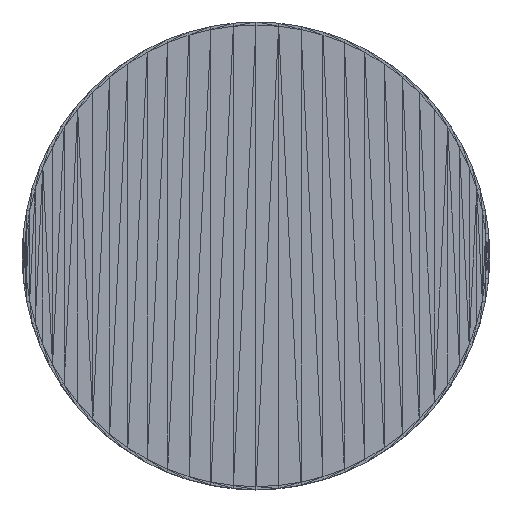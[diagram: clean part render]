
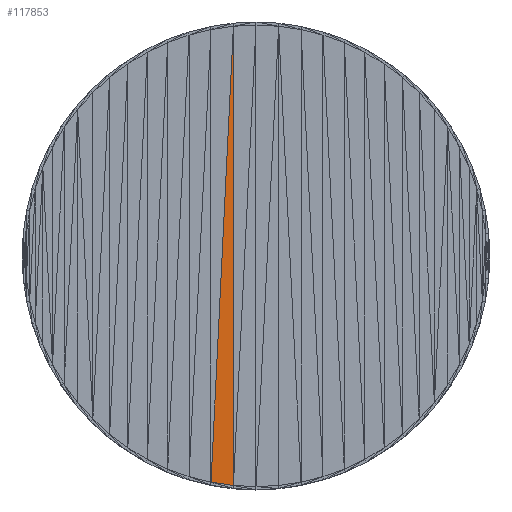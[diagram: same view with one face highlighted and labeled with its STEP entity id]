
A CAD part, top view. The second image highlights one B-rep face of the part: STEP entity #117853.
In plain terms, the highlighted planar face has unit normal (0, 0, 1).
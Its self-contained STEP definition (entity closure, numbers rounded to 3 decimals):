
#112927 = VERTEX_POINT('',#112928);
#112928 = CARTESIAN_POINT('',(195.196,14.576,
    160.));
#113003 = PLANE('',#113004);
#113004 = AXIS2_PLACEMENT_3D('',#113005,#113006,#113007);
#113005 = CARTESIAN_POINT('',(205.5,13.048,
    159.477));
#113006 = DIRECTION('',(-0.147,-0.989,
    0.));
#113007 = DIRECTION('',(-0.989,0.147,0.));
#114446 = VERTEX_POINT('',#114447);
#114447 = CARTESIAN_POINT('',(216.747,453.242,
    160.));
#114461 = PLANE('',#114462);
#114462 = AXIS2_PLACEMENT_3D('',#114463,#114464,#114465);
#114463 = CARTESIAN_POINT('',(200.737,238.424,
    160.));
#114464 = DIRECTION('',(0.,0.,1.));
#114465 = DIRECTION('',(1.,0.,-0.));
#114577 = PLANE('',#114578);
#114578 = AXIS2_PLACEMENT_3D('',#114579,#114580,#114581);
#114579 = CARTESIAN_POINT('',(222.327,237.891,
    160.));
#114580 = DIRECTION('',(0.,0.,1.));
#114581 = DIRECTION('',(1.,0.,0.));
#116568 = VERTEX_POINT('',#116569);
#116569 = CARTESIAN_POINT('',(216.747,11.38,
    160.));
#117827 = EDGE_CURVE('',#112927,#114446,#117828,.T.);
#117828 = SURFACE_CURVE('',#117829,(#117833,#117840),.PCURVE_S1.);
#117829 = LINE('',#117830,#117831);
#117830 = CARTESIAN_POINT('',(195.196,14.576,
    160.));
#117831 = VECTOR('',#117832,1.);
#117832 = DIRECTION('',(0.049,0.999,0.));
#117833 = PCURVE('',#114461,#117834);
#117834 = DEFINITIONAL_REPRESENTATION('',(#117835),#117839);
#117835 = LINE('',#117836,#117837);
#117836 = CARTESIAN_POINT('',(-5.541,-223.848));
#117837 = VECTOR('',#117838,1.);
#117838 = DIRECTION('',(0.049,0.999));
#117839 = ( GEOMETRIC_REPRESENTATION_CONTEXT(2) 
PARAMETRIC_REPRESENTATION_CONTEXT() REPRESENTATION_CONTEXT('2D SPACE',''
  ) );
#117840 = PCURVE('',#117841,#117846);
#117841 = PLANE('',#117842);
#117842 = AXIS2_PLACEMENT_3D('',#117843,#117844,#117845);
#117843 = CARTESIAN_POINT('',(211.245,227.796,
    160.));
#117844 = DIRECTION('',(0.,0.,1.));
#117845 = DIRECTION('',(1.,0.,-0.));
#117846 = DEFINITIONAL_REPRESENTATION('',(#117847),#117851);
#117847 = LINE('',#117848,#117849);
#117848 = CARTESIAN_POINT('',(-16.049,-213.219));
#117849 = VECTOR('',#117850,1.);
#117850 = DIRECTION('',(0.049,0.999));
#117851 = ( GEOMETRIC_REPRESENTATION_CONTEXT(2) 
PARAMETRIC_REPRESENTATION_CONTEXT() REPRESENTATION_CONTEXT('2D SPACE',''
  ) );
#117853 = ADVANCED_FACE('',(#117854),#117841,.T.);
#117854 = FACE_BOUND('',#117855,.T.);
#117855 = EDGE_LOOP('',(#117856,#117857,#117878));
#117856 = ORIENTED_EDGE('',*,*,#117827,.F.);
#117857 = ORIENTED_EDGE('',*,*,#117858,.T.);
#117858 = EDGE_CURVE('',#112927,#116568,#117859,.T.);
#117859 = SURFACE_CURVE('',#117860,(#117864,#117871),.PCURVE_S1.);
#117860 = LINE('',#117861,#117862);
#117861 = CARTESIAN_POINT('',(195.196,14.576,
    160.));
#117862 = VECTOR('',#117863,1.);
#117863 = DIRECTION('',(0.989,-0.147,0.));
#117864 = PCURVE('',#117841,#117865);
#117865 = DEFINITIONAL_REPRESENTATION('',(#117866),#117870);
#117866 = LINE('',#117867,#117868);
#117867 = CARTESIAN_POINT('',(-16.049,-213.219));
#117868 = VECTOR('',#117869,1.);
#117869 = DIRECTION('',(0.989,-0.147));
#117870 = ( GEOMETRIC_REPRESENTATION_CONTEXT(2) 
PARAMETRIC_REPRESENTATION_CONTEXT() REPRESENTATION_CONTEXT('2D SPACE',''
  ) );
#117871 = PCURVE('',#113003,#117872);
#117872 = DEFINITIONAL_REPRESENTATION('',(#117873),#117877);
#117873 = LINE('',#117874,#117875);
#117874 = CARTESIAN_POINT('',(10.416,-0.523));
#117875 = VECTOR('',#117876,1.);
#117876 = DIRECTION('',(-1.,0.));
#117877 = ( GEOMETRIC_REPRESENTATION_CONTEXT(2) 
PARAMETRIC_REPRESENTATION_CONTEXT() REPRESENTATION_CONTEXT('2D SPACE',''
  ) );
#117878 = ORIENTED_EDGE('',*,*,#117879,.T.);
#117879 = EDGE_CURVE('',#116568,#114446,#117880,.T.);
#117880 = SURFACE_CURVE('',#117881,(#117885,#117892),.PCURVE_S1.);
#117881 = LINE('',#117882,#117883);
#117882 = CARTESIAN_POINT('',(216.747,11.38,
    160.));
#117883 = VECTOR('',#117884,1.);
#117884 = DIRECTION('',(0.,1.,0.));
#117885 = PCURVE('',#117841,#117886);
#117886 = DEFINITIONAL_REPRESENTATION('',(#117887),#117891);
#117887 = LINE('',#117888,#117889);
#117888 = CARTESIAN_POINT('',(5.502,-216.416));
#117889 = VECTOR('',#117890,1.);
#117890 = DIRECTION('',(0.,1.));
#117891 = ( GEOMETRIC_REPRESENTATION_CONTEXT(2) 
PARAMETRIC_REPRESENTATION_CONTEXT() REPRESENTATION_CONTEXT('2D SPACE',''
  ) );
#117892 = PCURVE('',#114577,#117893);
#117893 = DEFINITIONAL_REPRESENTATION('',(#117894),#117898);
#117894 = LINE('',#117895,#117896);
#117895 = CARTESIAN_POINT('',(-5.58,-226.511));
#117896 = VECTOR('',#117897,1.);
#117897 = DIRECTION('',(0.,1.));
#117898 = ( GEOMETRIC_REPRESENTATION_CONTEXT(2) 
PARAMETRIC_REPRESENTATION_CONTEXT() REPRESENTATION_CONTEXT('2D SPACE',''
  ) );
